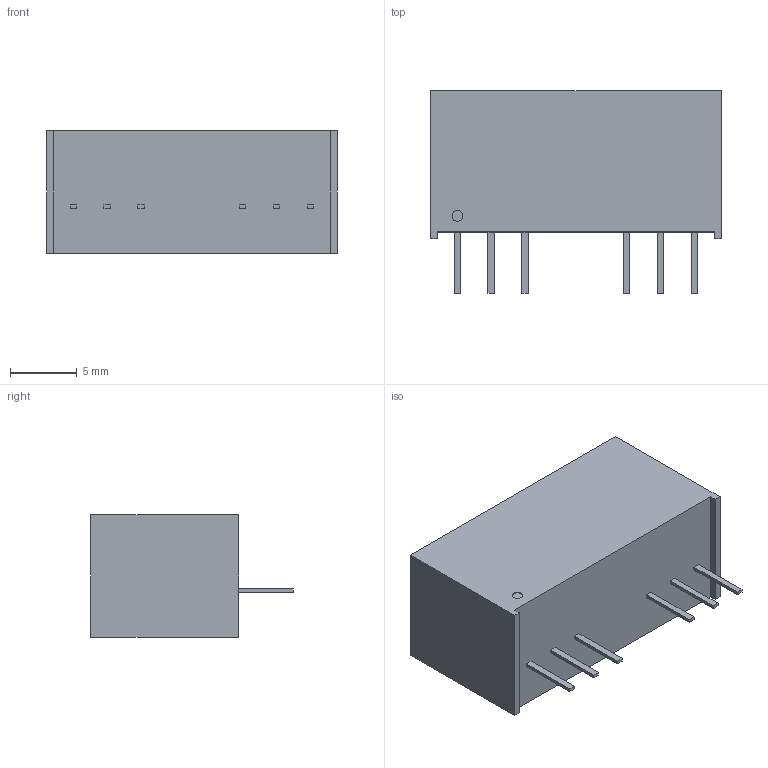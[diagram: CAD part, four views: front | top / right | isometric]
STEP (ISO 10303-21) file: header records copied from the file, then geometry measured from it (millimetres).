
FILE_DESCRIPTION (( 'STEP AP203' ), '1' );
FILE_NAME ('EC3SAWH.STEP', '2021-09-14T07:22:17', ( '' ), ( '' ), 'SwSTEP 2.0', 'SolidWorks 2020', '' );
FILE_SCHEMA (( 'CONFIG_CONTROL_DESIGN' ));
Length unit declared in the file: millimetre
Products named in the file (1): EC3SAWH
Bounding box: 21.8 x 15.2 x 9.2 mm (x, y, z)
Volume: 2134 mm3; surface area: 1119.2 mm2
Topology: 1 solids, 1 shells, 43 faces, 102 edges, 68 vertices
Faces by surface type: plane 41, cylinder 2
Entity records: 1297 total; most frequent: CARTESIAN_POINT 214, ORIENTED_EDGE 204, DIRECTION 194, EDGE_CURVE 102, VECTOR 98, LINE 98, VERTEX_POINT 68, EDGE_LOOP 50
